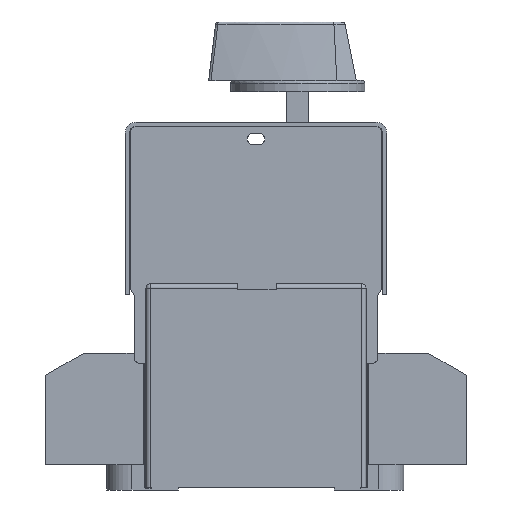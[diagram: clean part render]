
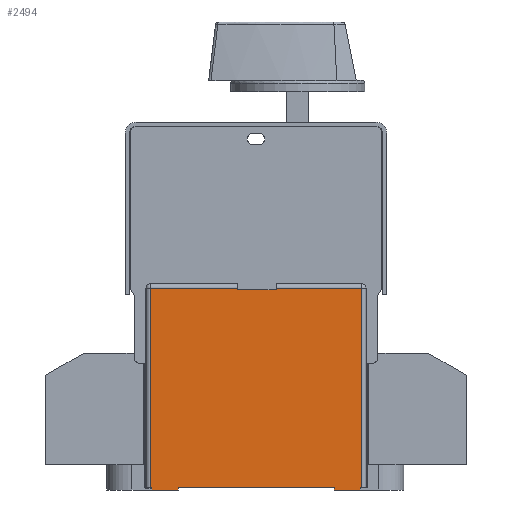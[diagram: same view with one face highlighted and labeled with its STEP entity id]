
A CAD part, left-side view. The second image highlights one B-rep face of the part: STEP entity #2494.
In plain terms, the highlighted planar face has unit normal (-1, 0, 0).
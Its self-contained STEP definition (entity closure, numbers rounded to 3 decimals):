
#1402=FACE_OUTER_BOUND('',#4695,.T.);
#2494=ADVANCED_FACE('',(#1402),#3652,.F.);
#3652=PLANE('',#23395);
#4695=EDGE_LOOP('',(#6628,#6629,#6630,#6631,#6632,#6633,#6634,#6635,#6636,
#6637,#6638,#6639,#6640,#6641,#6642,#6643));
#6628=ORIENTED_EDGE('',*,*,#15306,.F.);
#6629=ORIENTED_EDGE('',*,*,#15307,.T.);
#6630=ORIENTED_EDGE('',*,*,#15308,.T.);
#6631=ORIENTED_EDGE('',*,*,#15079,.F.);
#6632=ORIENTED_EDGE('',*,*,#15309,.T.);
#6633=ORIENTED_EDGE('',*,*,#15310,.T.);
#6634=ORIENTED_EDGE('',*,*,#15304,.T.);
#6635=ORIENTED_EDGE('',*,*,#15190,.T.);
#6636=ORIENTED_EDGE('',*,*,#14942,.F.);
#6637=ORIENTED_EDGE('',*,*,#15311,.F.);
#6638=ORIENTED_EDGE('',*,*,#15312,.T.);
#6639=ORIENTED_EDGE('',*,*,#15090,.T.);
#6640=ORIENTED_EDGE('',*,*,#15313,.F.);
#6641=ORIENTED_EDGE('',*,*,#15314,.F.);
#6642=ORIENTED_EDGE('',*,*,#14958,.T.);
#6643=ORIENTED_EDGE('',*,*,#15202,.T.);
#12753=VERTEX_POINT('',#31532);
#12754=VERTEX_POINT('',#31534);
#12767=VERTEX_POINT('',#31565);
#12768=VERTEX_POINT('',#31567);
#12867=VERTEX_POINT('',#31815);
#12869=VERTEX_POINT('',#31819);
#12880=VERTEX_POINT('',#31843);
#12881=VERTEX_POINT('',#31845);
#12964=VERTEX_POINT('',#32044);
#12972=VERTEX_POINT('',#32066);
#13035=VERTEX_POINT('',#32264);
#13036=VERTEX_POINT('',#32268);
#13037=VERTEX_POINT('',#32270);
#13038=VERTEX_POINT('',#32273);
#13039=VERTEX_POINT('',#32276);
#13040=VERTEX_POINT('',#32279);
#14942=EDGE_CURVE('',#12753,#12754,#18264,.T.);
#14958=EDGE_CURVE('',#12768,#12767,#18279,.T.);
#15079=EDGE_CURVE('',#12869,#12867,#18387,.T.);
#15090=EDGE_CURVE('',#12881,#12880,#18398,.T.);
#15190=EDGE_CURVE('',#12964,#12754,#18477,.T.);
#15202=EDGE_CURVE('',#12767,#12972,#18485,.T.);
#15304=EDGE_CURVE('',#13035,#12964,#18573,.T.);
#15306=EDGE_CURVE('',#13036,#12972,#18574,.T.);
#15307=EDGE_CURVE('',#13036,#13037,#18575,.T.);
#15308=EDGE_CURVE('',#13037,#12867,#18576,.T.);
#15309=EDGE_CURVE('',#12869,#13038,#18577,.T.);
#15310=EDGE_CURVE('',#13038,#13035,#18578,.T.);
#15311=EDGE_CURVE('',#13039,#12753,#18579,.T.);
#15312=EDGE_CURVE('',#13039,#12881,#18580,.T.);
#15313=EDGE_CURVE('',#13040,#12880,#18581,.T.);
#15314=EDGE_CURVE('',#12768,#13040,#18582,.T.);
#18264=LINE('',#31533,#20782);
#18279=LINE('',#31566,#20797);
#18387=LINE('',#31820,#20905);
#18398=LINE('',#31844,#20916);
#18477=LINE('',#32043,#20995);
#18485=LINE('',#32067,#21003);
#18573=LINE('',#32263,#21091);
#18574=LINE('',#32267,#21092);
#18575=LINE('',#32269,#21093);
#18576=LINE('',#32271,#21094);
#18577=LINE('',#32272,#21095);
#18578=LINE('',#32274,#21096);
#18579=LINE('',#32275,#21097);
#18580=LINE('',#32277,#21098);
#18581=LINE('',#32278,#21099);
#18582=LINE('',#32280,#21100);
#20782=VECTOR('',#25253,1.);
#20797=VECTOR('',#25276,1.);
#20905=VECTOR('',#25456,1.);
#20916=VECTOR('',#25471,1.);
#20995=VECTOR('',#25624,1.);
#21003=VECTOR('',#25646,1.);
#21091=VECTOR('',#25826,1.);
#21092=VECTOR('',#25831,1.);
#21093=VECTOR('',#25832,1.);
#21094=VECTOR('',#25833,1.);
#21095=VECTOR('',#25834,1.);
#21096=VECTOR('',#25835,1.);
#21097=VECTOR('',#25836,1.);
#21098=VECTOR('',#25837,1.);
#21099=VECTOR('',#25838,1.);
#21100=VECTOR('',#25839,1.);
#23395=AXIS2_PLACEMENT_3D('',#32281,#25840,#25841);
#25253=DIRECTION('',(0.,0.,1.));
#25276=DIRECTION('',(0.,0.,1.));
#25456=DIRECTION('',(0.,-1.,0.));
#25471=DIRECTION('',(0.,-1.,0.));
#25624=DIRECTION('',(0.,-1.,0.));
#25646=DIRECTION('',(0.,-1.,0.));
#25826=DIRECTION('',(0.,0.,-1.));
#25831=DIRECTION('',(0.,0.,-1.));
#25832=DIRECTION('',(0.,1.,0.));
#25833=DIRECTION('',(0.,0.,-1.));
#25834=DIRECTION('',(0.,0.,1.));
#25835=DIRECTION('',(0.,1.,0.));
#25836=DIRECTION('',(0.,1.,0.));
#25837=DIRECTION('',(0.,0.,1.));
#25838=DIRECTION('',(0.,0.,1.));
#25839=DIRECTION('',(0.,1.,0.));
#25840=DIRECTION('',(1.,0.,0.));
#25841=DIRECTION('',(0.,0.,-1.));
#31532=CARTESIAN_POINT('',(-69.,12.765,-4.9));
#31533=CARTESIAN_POINT('',(-69.,12.765,-5.9));
#31534=CARTESIAN_POINT('',(-69.,12.765,-3.9));
#31565=CARTESIAN_POINT('',(-69.,-62.235,-3.9));
#31566=CARTESIAN_POINT('',(-69.,-62.235,-5.9));
#31567=CARTESIAN_POINT('',(-69.,-62.235,-4.9));
#31815=CARTESIAN_POINT('',(-69.,-31.985,67.));
#31819=CARTESIAN_POINT('',(-69.,-17.985,67.));
#31820=CARTESIAN_POINT('',(-69.,12.765,67.));
#31843=CARTESIAN_POINT('',(-69.,-52.735,-3.9));
#31844=CARTESIAN_POINT('',(-69.,-62.235,-3.9));
#31845=CARTESIAN_POINT('',(-69.,3.265,-3.9));
#32043=CARTESIAN_POINT('',(-69.,-62.235,-3.9));
#32044=CARTESIAN_POINT('',(-69.,13.265,-3.9));
#32066=CARTESIAN_POINT('',(-69.,-62.735,-3.9));
#32067=CARTESIAN_POINT('',(-69.,-62.235,-3.9));
#32263=CARTESIAN_POINT('',(-69.,13.265,69.1));
#32264=CARTESIAN_POINT('',(-69.,13.265,67.6));
#32267=CARTESIAN_POINT('',(-69.,-62.735,69.1));
#32268=CARTESIAN_POINT('',(-69.,-62.735,67.6));
#32269=CARTESIAN_POINT('',(-69.,13.265,67.6));
#32270=CARTESIAN_POINT('',(-69.,-31.985,67.6));
#32271=CARTESIAN_POINT('',(-69.,-31.985,69.1));
#32272=CARTESIAN_POINT('',(-69.,-17.985,69.1));
#32273=CARTESIAN_POINT('',(-69.,-17.985,67.6));
#32274=CARTESIAN_POINT('',(-69.,13.265,67.6));
#32275=CARTESIAN_POINT('',(-69.,3.265,-4.9));
#32276=CARTESIAN_POINT('',(-69.,3.265,-4.9));
#32277=CARTESIAN_POINT('',(-69.,3.265,-5.9));
#32278=CARTESIAN_POINT('',(-69.,-52.735,-5.9));
#32279=CARTESIAN_POINT('',(-69.,-52.735,-4.9));
#32280=CARTESIAN_POINT('',(-69.,-62.235,-4.9));
#32281=CARTESIAN_POINT('',(-69.,-62.235,69.1));
